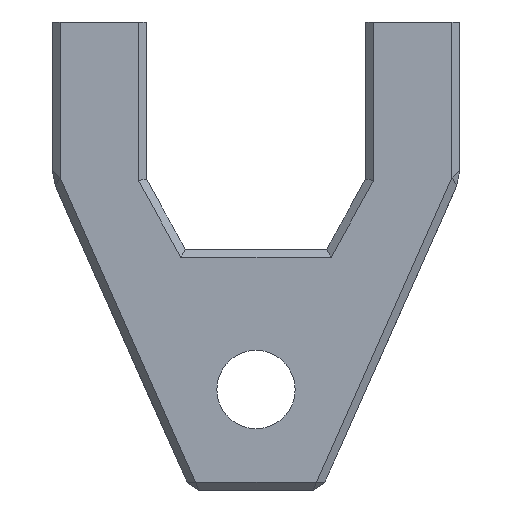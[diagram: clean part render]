
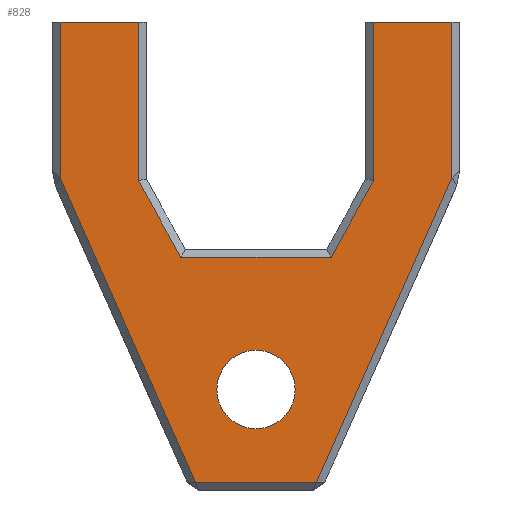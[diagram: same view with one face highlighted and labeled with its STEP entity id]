
A CAD part, front view. The second image highlights one B-rep face of the part: STEP entity #828.
In plain terms, the highlighted planar face has unit normal (0, -1, 0).
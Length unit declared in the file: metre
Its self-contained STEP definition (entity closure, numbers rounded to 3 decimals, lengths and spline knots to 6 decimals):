
#34=LINE('',#1251,#134);
#35=LINE('',#1254,#135);
#36=LINE('',#1256,#136);
#37=LINE('',#1258,#137);
#38=LINE('',#1260,#138);
#39=LINE('',#1262,#139);
#40=LINE('',#1264,#140);
#41=LINE('',#1266,#141);
#42=LINE('',#1268,#142);
#43=LINE('',#1270,#143);
#44=LINE('',#1272,#144);
#45=LINE('',#1274,#145);
#134=VECTOR('',#1002,1.);
#135=VECTOR('',#1003,1.);
#136=VECTOR('',#1004,1.);
#137=VECTOR('',#1005,1.);
#138=VECTOR('',#1006,1.);
#139=VECTOR('',#1007,1.);
#140=VECTOR('',#1008,1.);
#141=VECTOR('',#1009,1.);
#142=VECTOR('',#1010,1.);
#143=VECTOR('',#1011,1.);
#144=VECTOR('',#1012,1.);
#145=VECTOR('',#1013,1.);
#217=PLANE('',#901);
#288=ORIENTED_EDGE('',*,*,#512,.F.);
#289=ORIENTED_EDGE('',*,*,#513,.T.);
#290=ORIENTED_EDGE('',*,*,#514,.T.);
#291=ORIENTED_EDGE('',*,*,#515,.T.);
#292=ORIENTED_EDGE('',*,*,#516,.T.);
#293=ORIENTED_EDGE('',*,*,#517,.T.);
#294=ORIENTED_EDGE('',*,*,#518,.F.);
#295=ORIENTED_EDGE('',*,*,#519,.T.);
#296=ORIENTED_EDGE('',*,*,#520,.T.);
#297=ORIENTED_EDGE('',*,*,#521,.T.);
#298=ORIENTED_EDGE('',*,*,#522,.T.);
#299=ORIENTED_EDGE('',*,*,#523,.T.);
#300=ORIENTED_EDGE('',*,*,#524,.F.);
#512=EDGE_CURVE('',#624,#625,#34,.T.);
#513=EDGE_CURVE('',#624,#626,#35,.T.);
#514=EDGE_CURVE('',#626,#627,#36,.T.);
#515=EDGE_CURVE('',#627,#628,#37,.T.);
#516=EDGE_CURVE('',#628,#629,#38,.T.);
#517=EDGE_CURVE('',#629,#630,#39,.T.);
#518=EDGE_CURVE('',#631,#630,#40,.T.);
#519=EDGE_CURVE('',#631,#632,#41,.T.);
#520=EDGE_CURVE('',#632,#633,#42,.T.);
#521=EDGE_CURVE('',#633,#634,#43,.T.);
#522=EDGE_CURVE('',#634,#635,#44,.T.);
#523=EDGE_CURVE('',#635,#625,#45,.T.);
#524=EDGE_CURVE('',#636,#636,#672,.T.);
#624=VERTEX_POINT('',#1252);
#625=VERTEX_POINT('',#1253);
#626=VERTEX_POINT('',#1255);
#627=VERTEX_POINT('',#1257);
#628=VERTEX_POINT('',#1259);
#629=VERTEX_POINT('',#1261);
#630=VERTEX_POINT('',#1263);
#631=VERTEX_POINT('',#1265);
#632=VERTEX_POINT('',#1267);
#633=VERTEX_POINT('',#1269);
#634=VERTEX_POINT('',#1271);
#635=VERTEX_POINT('',#1273);
#636=VERTEX_POINT('',#1276);
#672=CIRCLE('',#902,0.003175);
#685=EDGE_LOOP('',(#288,#289,#290,#291,#292,#293,#294,#295,#296,#297,#298,
#299));
#686=EDGE_LOOP('',(#300));
#755=FACE_BOUND('',#685,.T.);
#756=FACE_BOUND('',#686,.T.);
#828=ADVANCED_FACE('',(#755,#756),#217,.T.);
#901=AXIS2_PLACEMENT_3D('',#1250,#1000,#1001);
#902=AXIS2_PLACEMENT_3D('',#1275,#1014,#1015);
#1000=DIRECTION('',(0.,-1.,0.));
#1001=DIRECTION('',(0.,0.,-1.));
#1002=DIRECTION('',(1.,0.,0.));
#1003=DIRECTION('',(0.,0.,-1.));
#1004=DIRECTION('',(0.406,0.,-0.914));
#1005=DIRECTION('',(1.,0.,0.));
#1006=DIRECTION('',(0.406,0.,0.914));
#1007=DIRECTION('',(0.,0.,1.));
#1008=DIRECTION('',(1.,0.,0.));
#1009=DIRECTION('',(0.,0.,-1.));
#1010=DIRECTION('',(-0.486,0.,-0.874));
#1011=DIRECTION('',(-1.,0.,0.));
#1012=DIRECTION('',(-0.486,0.,0.874));
#1013=DIRECTION('',(0.,0.,1.));
#1014=DIRECTION('',(0.,-1.,0.));
#1015=DIRECTION('',(0.,0.,-1.));
#1250=CARTESIAN_POINT('',(-0.0127,-0.023368,-0.0127));
#1251=CARTESIAN_POINT('',(-0.0127,-0.023368,0.));
#1252=CARTESIAN_POINT('',(-0.015875,-0.023368,0.));
#1253=CARTESIAN_POINT('',(-0.009525,-0.023368,0.));
#1254=CARTESIAN_POINT('',(-0.015875,-0.023368,-0.0127));
#1255=CARTESIAN_POINT('',(-0.015875,-0.023368,-0.012565));
#1256=CARTESIAN_POINT('',(-0.015301,-0.023368,-0.013856));
#1257=CARTESIAN_POINT('',(-0.004887,-0.023368,-0.037276));
#1258=CARTESIAN_POINT('',(-0.0127,-0.023368,-0.037276));
#1259=CARTESIAN_POINT('',(0.004887,-0.023368,-0.037276));
#1260=CARTESIAN_POINT('',(0.011108,-0.023368,-0.023286));
#1261=CARTESIAN_POINT('',(0.015875,-0.023368,-0.012565));
#1262=CARTESIAN_POINT('',(0.015875,-0.023368,0.));
#1263=CARTESIAN_POINT('',(0.015875,-0.023368,0.));
#1264=CARTESIAN_POINT('',(0.0127,-0.023368,0.));
#1265=CARTESIAN_POINT('',(0.009525,-0.023368,0.));
#1266=CARTESIAN_POINT('',(0.009525,-0.023368,-0.0127));
#1267=CARTESIAN_POINT('',(0.009525,-0.023368,-0.012865));
#1268=CARTESIAN_POINT('',(0.004353,-0.023368,-0.022174));
#1269=CARTESIAN_POINT('',(0.006089,-0.023368,-0.01905));
#1270=CARTESIAN_POINT('',(-0.0127,-0.023368,-0.01905));
#1271=CARTESIAN_POINT('',(-0.006089,-0.023368,-0.01905));
#1272=CARTESIAN_POINT('',(-0.010344,-0.023368,-0.011391));
#1273=CARTESIAN_POINT('',(-0.009525,-0.023368,-0.012865));
#1274=CARTESIAN_POINT('',(-0.009525,-0.023368,0.));
#1275=CARTESIAN_POINT('',(0.,-0.023368,-0.029776));
#1276=CARTESIAN_POINT('',(0.,-0.023368,-0.032951));
